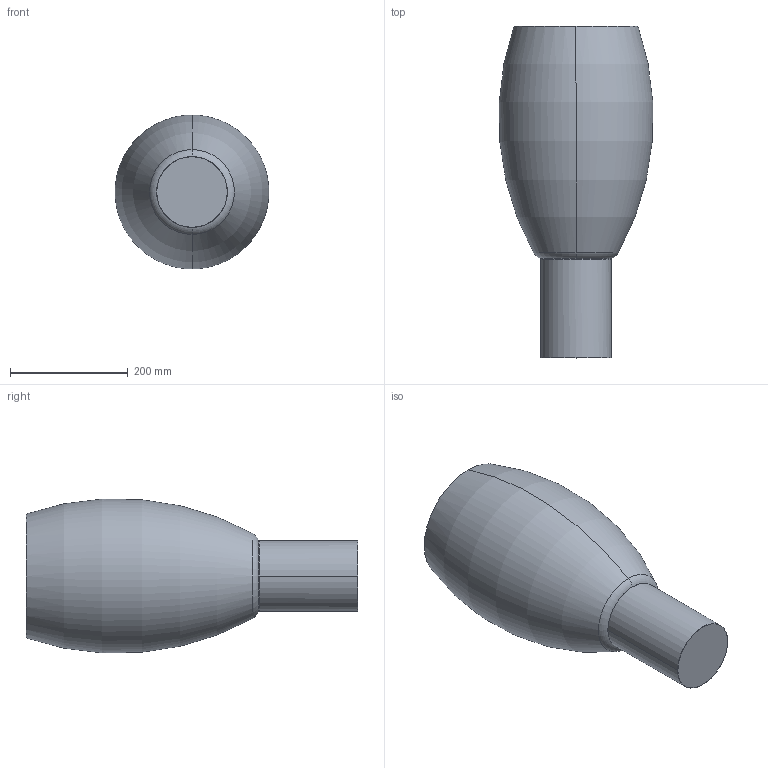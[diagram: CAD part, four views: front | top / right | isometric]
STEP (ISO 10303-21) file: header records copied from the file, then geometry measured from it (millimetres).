
FILE_DESCRIPTION (( 'STEP AP214' ), '1' );
FILE_NAME ('278_1_T_PL_3D.STEP', '2021-05-10T07:30:17', ( '' ), ( '' ), 'SwSTEP 2.0', 'SolidWorks 2021', '' );
FILE_SCHEMA (( 'AUTOMOTIVE_DESIGN' ));
Length unit declared in the file: millimetre
Products named in the file (1): 278_1_T_PL_3D
Bounding box: 260.68 x 563 x 260.98 mm (x, y, z)
Volume: 3121500.9 mm3; surface area: 683904 mm2
Topology: 2 solids, 2 shells, 58 faces, 134 edges, 78 vertices
Faces by surface type: cylinder 22, torus 14, cone 8, plane 8, bspline 6
Entity records: 2812 total; most frequent: CARTESIAN_POINT 839, DIRECTION 291, ORIENTED_EDGE 256, EDGE_CURVE 128, AXIS2_PLACEMENT_3D 126, VERTEX_POINT 78, CIRCLE 73, EDGE_LOOP 64
